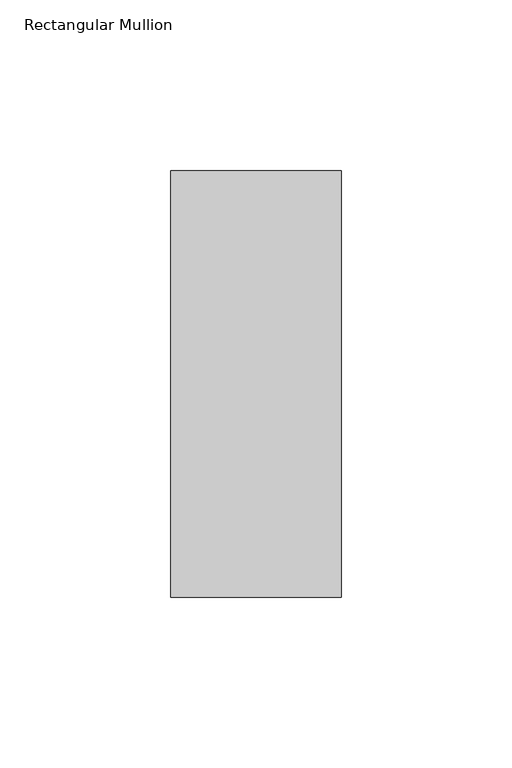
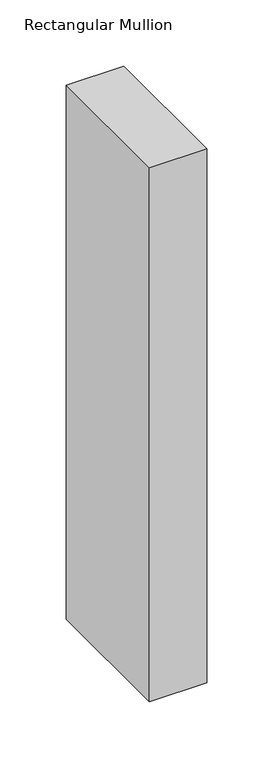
"""IFC4 building model written with IfcOpenShell, lengths in millimetres: member geometry, Rectangular Mullion : DucoSun Cubic Design profile 50x125 for louvre 600."""

from ifc_helpers import new_model, si_unit, frame, origin, place, context, project, spatial, polyline, outline, extrude, source, transform, mapped, element, save


def rectangular_mullion_cadbc0c9(model_context):
    return source(origin(), model_context, "Body", "SweptSolid", [
        extrude(outline(polyline([(-50.0, 237.5), (-50.0, 362.5), (0.0, 362.5), (0.0, 237.5), (-50.0, 237.5)])), frame((0.0, 0.0, -491.4999999), z_axis=(0.0, 0.0, 1.0), x_axis=(1.0, 0.0, 0.0)), (0.0, 0.0, 1.0), 491.4999999),
    ])


if __name__ == "__main__":
    model = new_model("IFC4")
    model_context = context("Model", 3, world=origin())
    ifc_project = project(units=[si_unit("LENGTHUNIT", "METRE", prefix="MILLI")], contexts=[model_context])
    site = spatial("IfcSite", under=ifc_project)
    building = spatial("IfcBuilding", under=site)
    placement = place(None, origin())
    rectangular_mullion_shape = rectangular_mullion_cadbc0c9(model_context)
    element("IfcMember", 1, ObjectType="Rectangular Mullion : DucoSun Cubic Design profile 50x125 for louvre 600", at=placement, inside=building, context=model_context, shape_type="MappedRepresentation", body=[
        mapped(rectangular_mullion_shape, transform((0.0, 0.0, 0.0), x_axis=(1.0, 0.0, 0.0), y_axis=(0.0, 1.0, 0.0), z_axis=(0.0, 0.0, 1.0))),
    ])
    save(model, "model.ifc")
